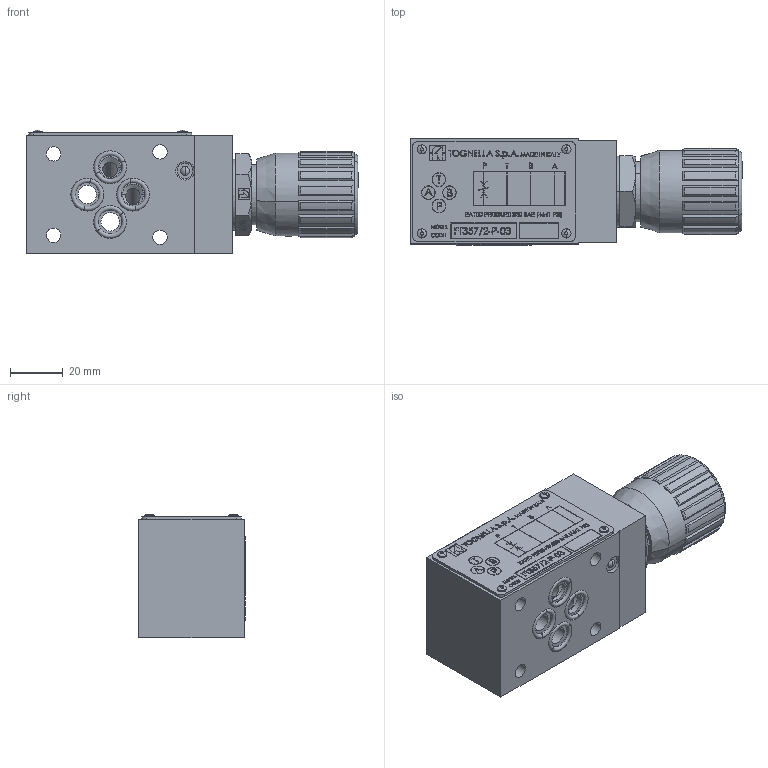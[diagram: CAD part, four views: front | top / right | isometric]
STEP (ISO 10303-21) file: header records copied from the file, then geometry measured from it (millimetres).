
FILE_DESCRIPTION (( 'STEP AP214' ), '1' );
FILE_NAME ('FT357-2-P-03.STEP', '2014-06-16T14:06:02', ( '' ), ( '' ), 'SwSTEP 2.0', 'SolidWorks 2014', '' );
FILE_SCHEMA (( 'AUTOMOTIVE_DESIGN' ));
Length unit declared in the file: millimetre
Products named in the file (15): GranoFT267_2-38_Tipo14; DiscoFascetta267_2-38; CappuccioFT267_2-38_Tipo38; Volantino267_2-38_Tipo38; CorpoValvolaFT267_2-38; 357-6-P001000; FT357-2-P-03; RivettoTarga; OR3068; OR2037; TappoKoenig; 357-2-P015000; FT267_2-38; OR2050; AnelloFT267_2-38
Assembly tree (22 placements, depth 3):
  FT357-2-P-03
    357-6-P001000
    FT267_2-38
      CorpoValvolaFT267_2-38
      Volantino267_2-38_Tipo38
      CappuccioFT267_2-38_Tipo38
      DiscoFascetta267_2-38
      GranoFT267_2-38_Tipo14
      AnelloFT267_2-38  x2
      OR2050
    357-2-P015000
    TappoKoenig  x2
    OR2037  x4
    OR3068
    RivettoTarga  x4
Bounding box: 126.3 x 40.38 x 46.96 mm (x, y, z)
Volume: 156146.5 mm3; surface area: 50948.8 mm2
Topology: 21 solids, 21 shells, 2003 faces, 5173 edges, 3390 vertices
Faces by surface type: plane 1184, bspline 427, cylinder 227, cone 119, torus 42, sphere 4
Entity records: 99459 total; most frequent: CARTESIAN_POINT 38304, ORIENTED_EDGE 10082, DIRECTION 7654, EDGE_CURVE 5041, LINE 3476, VECTOR 3476, VERTEX_POINT 3321, EDGE_LOOP 2188
